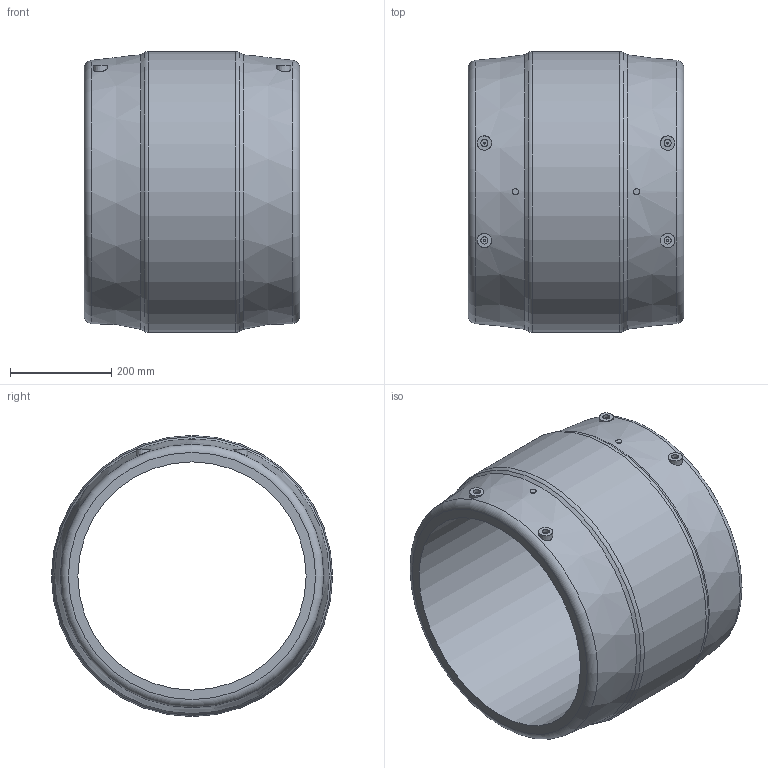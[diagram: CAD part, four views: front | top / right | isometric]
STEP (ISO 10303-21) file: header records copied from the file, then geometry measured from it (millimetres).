
FILE_DESCRIPTION(/* description */ ('Unknown'),/* implementation_level */ '2;1');
FILE_NAME(/* name */ 'MP450C',/* time_stamp */ '2021-02-11T09:20:52+01:00',/* author */ ('Unknown'),/* organization */ ('Unknown'),/* preprocessor_version */ 'ST-DEVELOPER v16.7',/* originating_system */ 'Solid Edge',/* authorisation */ 'Unknown');
FILE_SCHEMA (('AUTOMOTIVE_DESIGN {1 0 10303 214 3 1 1}'));
Length unit declared in the file: millimetre
Products named in the file (1): MP450C
Bounding box: 425 x 554 x 554 mm (x, y, z)
Volume: 29757024.4 mm3; surface area: 1418548.2 mm2
Topology: 1 solids, 1 shells, 40 faces, 74 edges, 48 vertices
Faces by surface type: plane 16, cylinder 12, cone 8, torus 4
Full cylindrical faces by diameter (mm): 4 x4, 12 x2, 14 x4, 450 x1, 554 x1
Entity records: 954 total; most frequent: CARTESIAN_POINT 243, DIRECTION 150, FACE_BOUND 84, ORIENTED_EDGE 80, EDGE_LOOP 80, AXIS2_PLACEMENT_3D 75, VERTEX_POINT 44, EDGE_CURVE 40
